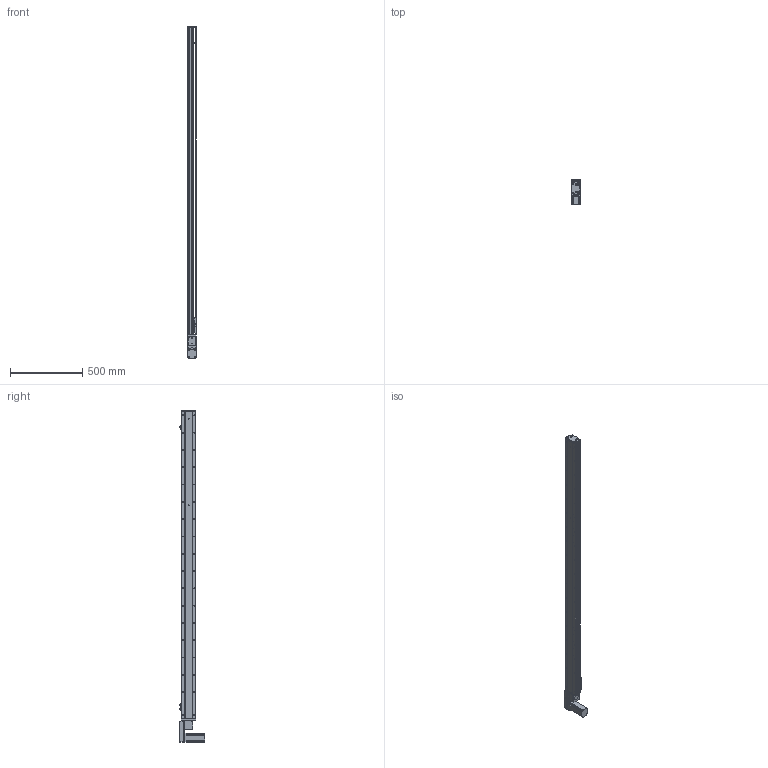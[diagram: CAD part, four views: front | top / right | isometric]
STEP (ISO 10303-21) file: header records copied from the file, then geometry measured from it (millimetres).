
FILE_DESCRIPTION (( 'STEP AP214' ), '1' );
FILE_NAME ('KSD100B-S1950-MLB-CM.STEP', '2019-11-09T07:44:39', ( '微软用户' ), ( '微软中国' ), 'SwSTEP 2.0', 'SolidWorks 2014', '' );
FILE_SCHEMA (( 'AUTOMOTIVE_DESIGN' ));
Length unit declared in the file: millimetre
Products named in the file (12): 100宽马达安装板同步带左; 100宽同步带安装板半封闭; 100宽马达安装板同步带; 100遵傷啣肮祭湍; 100宽底板半封闭同步带1950行程; KSD100B-S1950-MLB-CM; 悵誘欶奻狟殏; 100宽马达安装板连板上下折丝杆同步带; 台达ECMA－C20604AS伺服电机; U倰嫖萇EEㄜSX672; 覜茼え100遵圉猾敕; 100宽防尘板1950行程-同步带
Assembly tree (13 placements, depth 2):
  KSD100B-S1950-MLB-CM
    100宽底板半封闭同步带1950行程
    100遵傷啣肮祭湍
    100宽马达安装板同步带
    100宽同步带安装板半封闭
    100宽马达安装板同步带左
    100宽防尘板1950行程-同步带
    覜茼え100遵圉猾敕
    U倰嫖萇EEㄜSX672  x3
    台达ECMA－C20604AS伺服电机
    100宽马达安装板连板上下折丝杆同步带
    悵誘欶奻狟殏
Bounding box: 61 x 174.7 x 2303 mm (x, y, z)
Volume: 4535366.5 mm3; surface area: 1560442.2 mm2
Topology: 14 solids, 14 shells, 1741 faces, 4948 edges, 3107 vertices
Faces by surface type: cylinder 915, plane 623, cone 203
Entity records: 64409 total; most frequent: CARTESIAN_POINT 14016, DIRECTION 8656, ORIENTED_EDGE 8396, EDGE_CURVE 4198, AXIS2_PLACEMENT_3D 3197, VERTEX_POINT 2731, LINE 2262, VECTOR 2262
